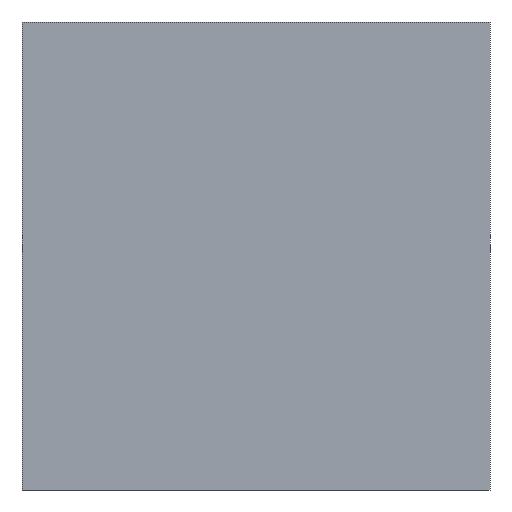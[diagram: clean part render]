
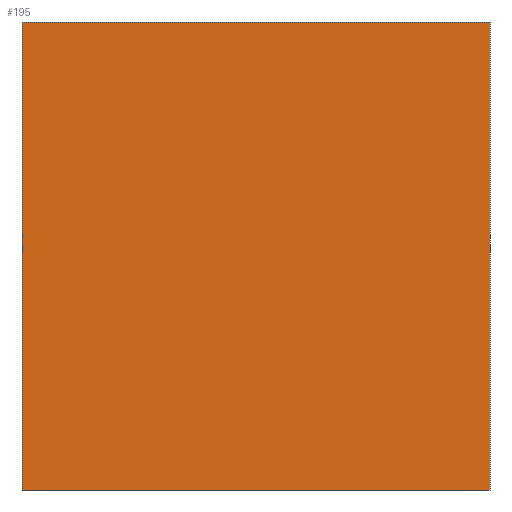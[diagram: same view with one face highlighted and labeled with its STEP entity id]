
A CAD part, front view. The second image highlights one B-rep face of the part: STEP entity #195.
In plain terms, the highlighted planar face has unit normal (0, -1, 0).
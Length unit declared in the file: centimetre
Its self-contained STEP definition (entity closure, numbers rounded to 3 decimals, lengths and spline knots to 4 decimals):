
#3 = VERTEX_POINT ( 'NONE', #707 ) ;
#37 = ORIENTED_EDGE ( 'NONE', *, *, #550, .F. ) ;
#86 = VERTEX_POINT ( 'NONE', #310 ) ;
#142 = VECTOR ( 'NONE', #217, 100. ) ;
#150 = EDGE_CURVE ( 'NONE', #167, #86, #445, .T. ) ;
#153 = PLANE ( 'NONE',  #787 ) ;
#167 = VERTEX_POINT ( 'NONE', #570 ) ;
#189 = CARTESIAN_POINT ( 'NONE',  ( 0., 0., 1000. ) ) ;
#195 = ADVANCED_FACE ( 'NONE', ( #266 ), #153, .F. ) ;
#217 = DIRECTION ( 'NONE',  ( 1., 0., 0. ) ) ;
#241 = EDGE_CURVE ( 'NONE', #3, #86, #637, .T. ) ;
#247 = LINE ( 'NONE', #621, #305 ) ;
#264 = DIRECTION ( 'NONE',  ( 0., 0., -1. ) ) ;
#266 = FACE_OUTER_BOUND ( 'NONE', #391, .T. ) ;
#300 = ORIENTED_EDGE ( 'NONE', *, *, #150, .F. ) ;
#305 = VECTOR ( 'NONE', #679, 100. ) ;
#310 = CARTESIAN_POINT ( 'NONE',  ( 1000., 0., 0. ) ) ;
#344 = DIRECTION ( 'NONE',  ( 0., 0., 1. ) ) ;
#391 = EDGE_LOOP ( 'NONE', ( #749, #300, #37, #426 ) ) ;
#426 = ORIENTED_EDGE ( 'NONE', *, *, #533, .T. ) ;
#445 = LINE ( 'NONE', #695, #514 ) ;
#471 = DIRECTION ( 'NONE',  ( 0., 1., 0. ) ) ;
#514 = VECTOR ( 'NONE', #688, 100. ) ;
#533 = EDGE_CURVE ( 'NONE', #738, #3, #742, .T. ) ;
#536 = CARTESIAN_POINT ( 'NONE',  ( 0., 0., 1000. ) ) ;
#545 = VECTOR ( 'NONE', #264, 100. ) ;
#550 = EDGE_CURVE ( 'NONE', #738, #167, #247, .T. ) ;
#570 = CARTESIAN_POINT ( 'NONE',  ( 1000., 0., 1000. ) ) ;
#621 = CARTESIAN_POINT ( 'NONE',  ( 0., 0., 1000. ) ) ;
#637 = LINE ( 'NONE', #772, #142 ) ;
#679 = DIRECTION ( 'NONE',  ( 1., 0., 0. ) ) ;
#688 = DIRECTION ( 'NONE',  ( 0., 0., -1. ) ) ;
#695 = CARTESIAN_POINT ( 'NONE',  ( 1000., 0., 1000. ) ) ;
#707 = CARTESIAN_POINT ( 'NONE',  ( 0., 0., 0. ) ) ;
#712 = CARTESIAN_POINT ( 'NONE',  ( 0., 0., 1000. ) ) ;
#738 = VERTEX_POINT ( 'NONE', #712 ) ;
#742 = LINE ( 'NONE', #189, #545 ) ;
#749 = ORIENTED_EDGE ( 'NONE', *, *, #241, .T. ) ;
#772 = CARTESIAN_POINT ( 'NONE',  ( 0., 0., 0. ) ) ;
#787 = AXIS2_PLACEMENT_3D ( 'NONE', #536, #471, #344 ) ;
